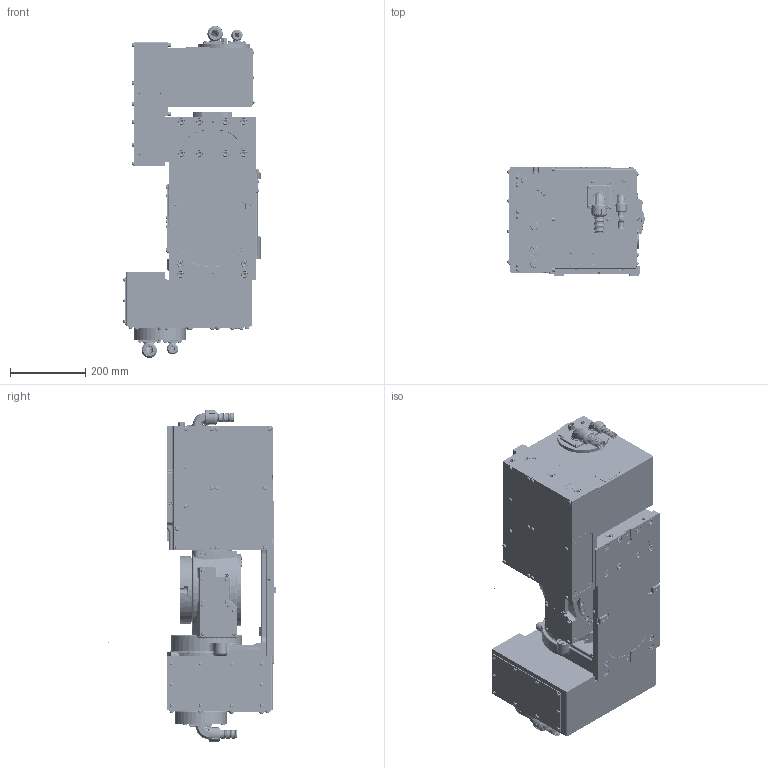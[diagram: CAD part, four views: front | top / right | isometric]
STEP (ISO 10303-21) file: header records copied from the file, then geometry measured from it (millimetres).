
FILE_DESCRIPTION (( 'STEP AP214' ), '1' );
FILE_NAME ('DHP-TW182BV-.STEP', '2025-04-04T06:48:26', ( '' ), ( '' ), 'SwSTEP 2.0', 'SolidWorks 2022', '' );
FILE_SCHEMA (( 'AUTOMOTIVE_DESIGN' ));
Length unit declared in the file: millimetre
Products named in the file (66): 0285005010; 0158010014; 61E475111; 61E457755; 0263200700_平面内圧用; 61E865973; 61E865972; 0158000005; 025AFA0004; 0263108500_平面内圧用; 61E822212; 040AZA0003; 61M419778; 61E475107; 008CZA0038; 61E486542; 0030105025; 61E865969; 61E484436; 026ABA0117_平面内圧用; 073BQA0002; DHP-TW182BV-; 61E865970; 61E475112; 040AZA0001; 0441125220_直接取付; 61E457754; 040BAA0001; 61E865971; 61E454420; 0030106016; 61E496143; 61E865976; 61E385756; 0150010400; 008CZA0039; 008CZA0035; 61E450780; 61E865974; 61E283102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
Assembly tree (252 placements, depth 3):
  0285005010
  0263200700_平面内圧用
  025AFA0004
  0030105025
  DHP-TW182BV-
    008CZA0035  x59
    0158000005  x59
    0030106016  x6
    61E270911
    61E283102
    61E457754
    61E457755
    61E475107
    61E475111
    61E475112
    61E484436
      61E486542
      017ACA0001_穴取付時  x4
    61E495305
      61E450780
      0158000005  x3
      008CZA0038  x3
      0263213000_平面内圧用
      073CAA0015
      073BQA0002
      073BQA0007
      073CAA0013
      0158010014
      0441125220_直接取付
      008CZA0021  x8
      0150010400  x8
    61E496143
      073CAA0015
      073BQA0002
      073BQA0007
      073CAA0013
      0158000005  x3
      008CZA0039  x3
      026ABA0117_平面内圧用
      0150010400  x8
      008CZA0021  x8
      61E456559
    61E822212
    61E454420
      0030106010  x3
      0030110045  x12
      008CUA0048
      040AZA0003
      0263002100_平面内圧用
      61E250387
      61E454377
      61M419778  x2
    61E866343
      61E865976
      61E865974
      61E865973
      61E865972
      61E865970
      61E865971
      61E865969
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Bounding box: 364.74 x 446.48 x 882.1 mm (x, y, z)
Volume: 24506242.6 mm3; surface area: 3968421.7 mm2
Topology: 341 solids, 344 shells, 13115 faces, 32996 edges, 20885 vertices
Faces by surface type: plane 4604, cylinder 3786, cone 2802, torus 1462, bspline 247, sphere 214
Entity records: 334098 total; most frequent: CARTESIAN_POINT 87459, DIRECTION 44296, ORIENTED_EDGE 43792, EDGE_CURVE 21896, AXIS2_PLACEMENT_3D 17386, VERTEX_POINT 14276, EDGE_LOOP 10080, LINE 9524
